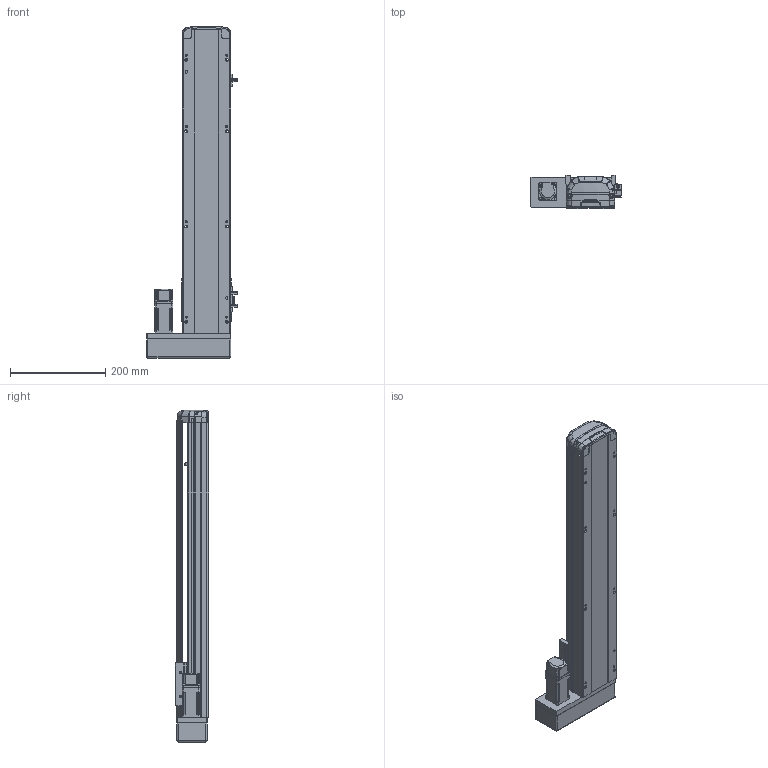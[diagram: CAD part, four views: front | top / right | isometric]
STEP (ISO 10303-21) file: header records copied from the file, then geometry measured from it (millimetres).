
FILE_DESCRIPTION (( 'STEP AP214' ), '1' );
FILE_NAME ('RTH10-XX-450-L-M10-C4.STEP', '2025-10-25T05:34:36', ( 'Microsoft' ), ( 'Microsoft' ), 'SwSTEP 2.0', 'SolidWorks 2018', '' );
FILE_SCHEMA (( 'AUTOMOTIVE_DESIGN' ));
Length unit declared in the file: millimetre
Products named in the file (10): N_RTH12-M-007P-奻裔^RTH10-XX-XX-L-M10-C4; N_RTH13-L-012覜茼え俋离^RTH10-XX-XX-L-M10-C4; N_RTH12-GY-001P^RTH10-XX-XX-L-M10-C4; RTH10-XX-450-L-M10-C4; N_RTH12-L-018-裔赽^RTH10-XX-XX-L-M10-C4; N_RTH12-L-008萇儂啣^RTH10-XX-XX-L-M10-C4; N_RTH12-GY-004-賑釱^RTH10-XX-XX-L-M10-C4; N_P10^RTH10-XX-XX-L-M10-C4; N_OMRON EE-SX672 传感器^RTH10-XX-XX-L-M10-C4; N_RTH12-M-011P-臏倰第菁釱^RTH10-XX-XX-L-M10-C4
Assembly tree (11 placements, depth 2):
  RTH10-XX-450-L-M10-C4
    N_RTH12-M-011P-臏倰第菁釱^RTH10-XX-XX-L-M10-C4
    N_RTH13-L-012覜茼え俋离^RTH10-XX-XX-L-M10-C4
    N_OMRON EE-SX672 传感器^RTH10-XX-XX-L-M10-C4  x3
    N_P10^RTH10-XX-XX-L-M10-C4
    N_RTH12-M-007P-奻裔^RTH10-XX-XX-L-M10-C4
    N_RTH12-L-008萇儂啣^RTH10-XX-XX-L-M10-C4
    N_RTH12-L-018-裔赽^RTH10-XX-XX-L-M10-C4
    N_RTH12-GY-004-賑釱^RTH10-XX-XX-L-M10-C4
    N_RTH12-GY-001P^RTH10-XX-XX-L-M10-C4
Bounding box: 190 x 70 x 697.14 mm (x, y, z)
Volume: 3196925.9 mm3; surface area: 500297.2 mm2
Topology: 10 solids, 12 shells, 1900 faces, 5290 edges, 3469 vertices
Faces by surface type: plane 943, bspline 472, cylinder 450, cone 29, sphere 4, torus 2
Entity records: 56926 total; most frequent: CARTESIAN_POINT 22869, ORIENTED_EDGE 7652, DIRECTION 5832, EDGE_CURVE 3832, VERTEX_POINT 2513, VECTOR 2016, LINE 2016, AXIS2_PLACEMENT_3D 1908
